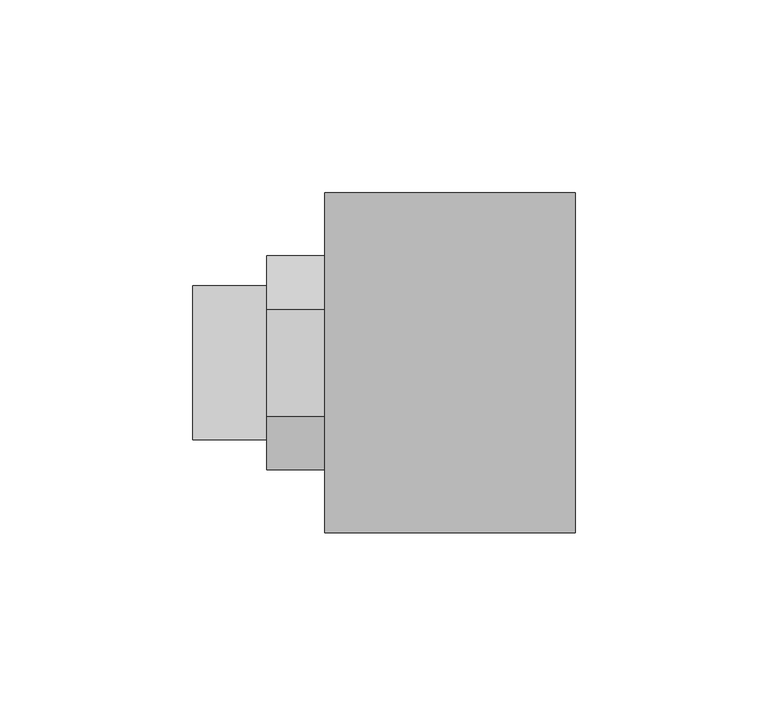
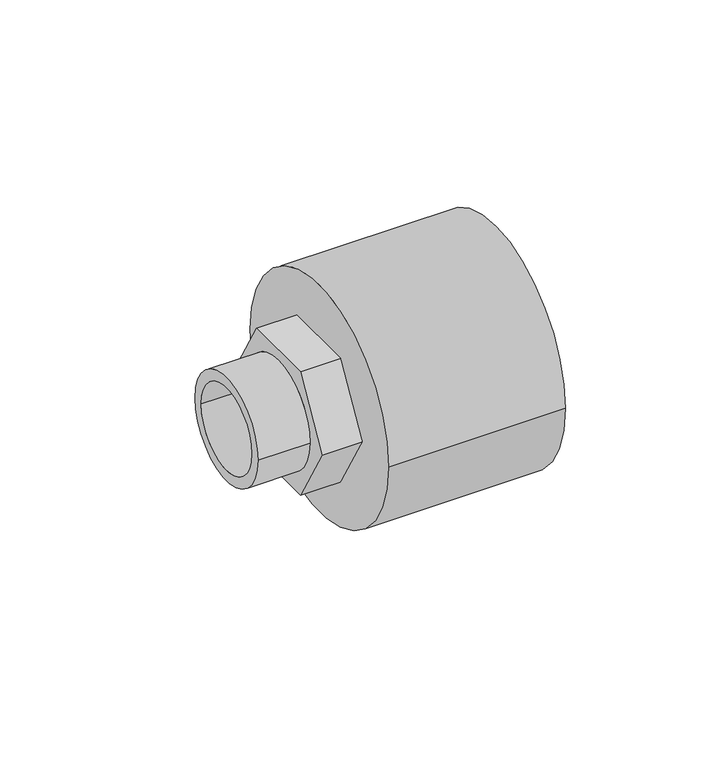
"""IFC4 building model written with IfcOpenShell, lengths in millimetres: pipe fitting geometry, NIRON RED termofusion roscado enlace rosca macho hexagonal : Estándar."""

from ifc_helpers import new_model, si_unit, point, frame, origin, origin_2d, place, context, project, spatial, polyline, circle_curve, trimmed, segment, composite_curve, outline, extrude, source, transform, mapped, element, save
from ifc_brep_helpers import plane_surface, cylinder_surface, revolved_surface, advanced_brep


def pipe_fitting_23aa1a42(model_context):
    return source(origin(), model_context, "Body", "SolidModel", [
        extrude(outline(composite_curve([segment(trimmed(circle_curve(origin_2d(), 20.0), [point((-20.0, 0.0))], [point((20.0, 0.0))], False, "CARTESIAN"), True, "CONTINUOUS"), segment(trimmed(circle_curve(origin_2d(), 20.0), [point((20.0, 0.0))], [point((-20.0, 0.0))], False, "CARTESIAN"), True, "CONTINUOUS")], self_intersect=False), holes=[composite_curve([segment(trimmed(circle_curve(origin_2d(), 16.0), [point((-16.0, 0.0))], [point((16.0, 0.0))], True, "CARTESIAN"), True, "CONTINUOUS"), segment(trimmed(circle_curve(origin_2d(), 16.0), [point((16.0, 0.0))], [point((-16.0, 0.0))], True, "CARTESIAN"), True, "CONTINUOUS")], self_intersect=False)]), frame((-19.1, 0.0, 0.0), z_axis=(1.0, 0.0, 0.0), x_axis=(0.0, 1.0, 0.0)), (0.0, 0.0, 1.0), 19.1),
        advanced_brep(
        [(79.9, 44.0, 0.0), (79.9, -44.0, 0.0), (15.0, 44.0, 0.0), (15.0, -44.0, 0.0), (15.0, -20.0, 0.0), (15.0, 20.0, 0.0), (23.7, 20.0, 0.0), (23.7, -20.0, 0.0)],
        [
            (0, 1, circle_curve(frame((79.9, 0.0, 0.0), z_axis=(1.0, 0.0, 0.0), x_axis=(0.0, -1.0, 0.0)), 44.0)),
            (1, 0, circle_curve(frame((79.9, 0.0, 0.0), z_axis=(1.0, 0.0, 0.0), x_axis=(0.0, -1.0, 0.0)), 44.0)),
            (2, 3, circle_curve(frame((15.0, 0.0, 0.0), z_axis=(-1.0, 0.0, 0.0), x_axis=(0.0, -1.0, 0.0)), 44.0)),
            (3, 2, circle_curve(frame((15.0, 0.0, 0.0), z_axis=(-1.0, 0.0, 0.0), x_axis=(0.0, -1.0, 0.0)), 44.0)),
            (4, 5, circle_curve(frame((15.0, 0.0, 0.0), z_axis=(1.0, 0.0, 0.0), x_axis=(0.0, -1.0, 0.0)), 20.0)),
            (5, 4, circle_curve(frame((15.0, 0.0, 0.0), z_axis=(1.0, 0.0, 0.0), x_axis=(0.0, -1.0, 0.0)), 20.0)),
            (1, 3),
            (2, 0),
            (6, 7, circle_curve(frame((23.7, 0.0, 0.0), z_axis=(-1.0, 0.0, 0.0), x_axis=(0.0, -1.0, 0.0)), 20.0)),
            (7, 6, circle_curve(frame((23.7, 0.0, 0.0), z_axis=(-1.0, 0.0, 0.0), x_axis=(0.0, -1.0, 0.0)), 20.0)),
            (6, 5),
            (4, 7),
        ],
        [
            plane_surface(frame((79.9, -44.0, 0.0), z_axis=(1.0, 0.0, 0.0), x_axis=(0.0, 0.0, -1.0))),
            plane_surface(frame((15.0, -44.0, 0.0), z_axis=(-1.0, 0.0, 0.0), x_axis=(0.0, 0.0, 1.0))),
            cylinder_surface(frame((79.9, 0.0, 0.0), z_axis=(-1.0, 0.0, 0.0), x_axis=(0.0, -1.0, 0.0)), 44.0),
            plane_surface(frame((23.7, -20.0, 0.0), z_axis=(-1.0, 0.0, 0.0), x_axis=(0.0, 0.0, -1.0))),
            revolved_surface(polyline([(15.0, -20.0, 0.0), (23.7, -20.0, 0.0)]), (23.7, 0.0, 0.0), (-1.0, 0.0, 0.0)),
        ],
        [
            (0, [[1, 2]]),
            (1, [[3, 4], [5, 6]]),
            (2, [[-2, 7, -3, 8]]),
            (2, [[-1, -8, -4, -7]]),
            (3, [[9, 10]]),
            (4, [[-9, 11, -5, 12]]),
            (4, [[-10, -12, -6, -11]]),
        ],
    ),
        advanced_brep(
        [(45.0, -13.8564065, -24.0), (45.0, 13.8564065, -24.0), (45.0, 27.7128129, 0.0), (45.0, 13.8564065, 24.0), (45.0, -13.8564065, 24.0), (45.0, -27.7128129, 0.0), (0.0, -13.8564065, -24.0), (0.0, -27.7128129, 0.0), (0.0, -13.8564065, 24.0), (0.0, 13.8564065, 24.0), (0.0, 27.7128129, 0.0), (0.0, 13.8564065, -24.0), (0.0, -20.0, 0.0), (0.0, 20.0, 0.0), (23.7, 20.0, 0.0), (23.7, -20.0, 0.0)],
        [
            (0, 1),
            (1, 2),
            (2, 3),
            (3, 4),
            (4, 5),
            (5, 0),
            (6, 7),
            (7, 8),
            (8, 9),
            (9, 10),
            (10, 11),
            (11, 6),
            (12, 13, circle_curve(frame((0.0, 0.0, 0.0), z_axis=(1.0, 0.0, 0.0), x_axis=(0.0, -1.0, 0.0)), 20.0)),
            (13, 12, circle_curve(frame((0.0, 0.0, 0.0), z_axis=(1.0, 0.0, 0.0), x_axis=(0.0, -1.0, 0.0)), 20.0)),
            (0, 6),
            (11, 1),
            (10, 2),
            (9, 3),
            (8, 4),
            (7, 5),
            (14, 15, circle_curve(frame((23.7, 0.0, 0.0), z_axis=(-1.0, 0.0, 0.0), x_axis=(0.0, -1.0, 0.0)), 20.0)),
            (15, 14, circle_curve(frame((23.7, 0.0, 0.0), z_axis=(-1.0, 0.0, 0.0), x_axis=(0.0, -1.0, 0.0)), 20.0)),
            (14, 13),
            (12, 15),
        ],
        [
            plane_surface(frame((45.0, 0.0, 0.0), z_axis=(1.0, 0.0, 0.0), x_axis=(0.0, 0.0, 1.0))),
            plane_surface(frame((0.0, 0.0, 0.0), z_axis=(-1.0, 0.0, 0.0), x_axis=(0.0, 0.0, 1.0))),
            plane_surface(frame((45.0, -13.8564065, -24.0), z_axis=(0.0, 0.0, -1.0), x_axis=(-1.0, 0.0, 0.0))),
            plane_surface(frame((45.0, 13.8564065, -24.0), z_axis=(0.0, 0.8660254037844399, -0.4999999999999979), x_axis=(-1.0, 0.0, 0.0))),
            plane_surface(frame((45.0, 27.7128129, 0.0), z_axis=(0.0, 0.866025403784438, 0.500000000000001), x_axis=(-1.0, 0.0, 0.0))),
            plane_surface(frame((45.0, 13.8564065, 24.0), z_axis=(0.0, 0.0, 1.0), x_axis=(-1.0, 0.0, 0.0))),
            plane_surface(frame((45.0, -13.8564065, 24.0), z_axis=(0.0, -0.8660254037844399, 0.49999999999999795), x_axis=(-1.0, 0.0, 0.0))),
            plane_surface(frame((45.0, -27.7128129, 0.0), z_axis=(0.0, -0.866025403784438, -0.5000000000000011), x_axis=(-1.0, 0.0, 0.0))),
            plane_surface(frame((23.7, -20.0, 0.0), z_axis=(-1.0, 0.0, 0.0), x_axis=(0.0, 0.0, -1.0))),
            revolved_surface(polyline([(0.0, -20.0, 0.0), (23.7, -20.0, 0.0)]), (23.7, 0.0, 0.0), (-1.0, 0.0, 0.0)),
        ],
        [
            (0, [[1, 2, 3, 4, 5, 6]]),
            (1, [[7, 8, 9, 10, 11, 12], [13, 14]]),
            (2, [[-1, 15, -12, 16]]),
            (3, [[-2, -16, -11, 17]]),
            (4, [[-3, -17, -10, 18]]),
            (5, [[-4, -18, -9, 19]]),
            (6, [[-5, -19, -8, 20]]),
            (7, [[-6, -20, -7, -15]]),
            (8, [[21, 22]]),
            (9, [[-21, 23, -13, 24]]),
            (9, [[-22, -24, -14, -23]]),
        ],
    ),
    ])


if __name__ == "__main__":
    model = new_model("IFC4")
    model_context = context("Model", 3, world=origin())
    ifc_project = project(units=[si_unit("LENGTHUNIT", "METRE", prefix="MILLI")], contexts=[model_context])
    site = spatial("IfcSite", under=ifc_project)
    building = spatial("IfcBuilding", under=site)
    placement = place(None, origin())
    pipe_fitting_shape = pipe_fitting_23aa1a42(model_context)
    element("IfcPipeFitting", 1, ObjectType="NIRON RED termofusion roscado enlace rosca macho hexagonal : Estándar", at=placement, inside=building, context=model_context, shape_type="MappedRepresentation", body=[
        mapped(pipe_fitting_shape, transform((0.0, 0.0, 0.0), x_axis=(1.0, 0.0, 0.0), y_axis=(0.0, 1.0, 0.0), z_axis=(0.0, 0.0, 1.0))),
    ])
    save(model, "model.ifc")
